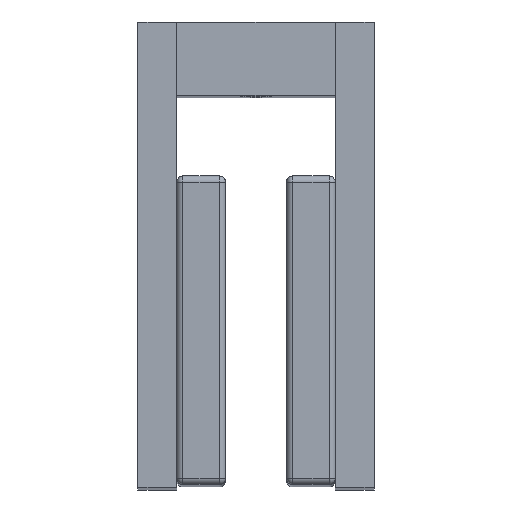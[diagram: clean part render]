
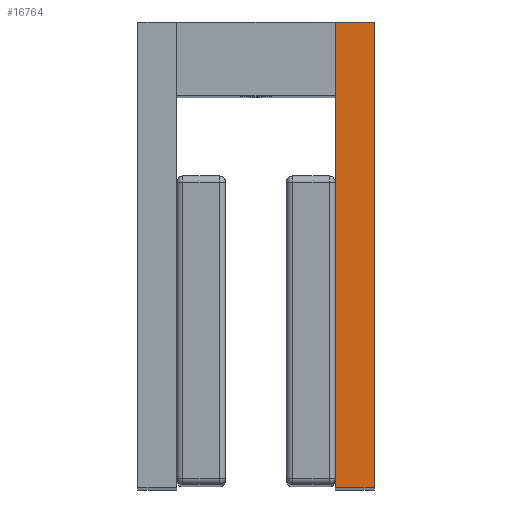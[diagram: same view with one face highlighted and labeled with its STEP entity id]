
A CAD part, top view. The second image highlights one B-rep face of the part: STEP entity #16764.
In plain terms, the highlighted planar face has unit normal (0, 0, 1).
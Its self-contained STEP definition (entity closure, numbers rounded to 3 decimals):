
#285 = EDGE_CURVE ( 'Defeatured_0_5+Defeatured_0_2+Defeatured_0_3+Defeatured_0_1', #1759, #3190, #5537, .T. ) ;
#296 = DIRECTION ( 'NONE',  ( 0., 0., -1. ) ) ;
#850 = DIRECTION ( 'NONE',  ( 0., -1., 0. ) ) ;
#1759 = VERTEX_POINT ( 'NONE', #19095 ) ;
#1794 = EDGE_CURVE ( 'Defeatured_0_2+Defeatured_0_37+Defeatured_0_3+Defeatured_0_0', #18677, #13866, #6120, .T. ) ;
#2045 = DIRECTION ( 'NONE',  ( 0., -1., 0. ) ) ;
#2885 = ORIENTED_EDGE ( 'NONE', *, *, #1794, .T. ) ;
#3190 = VERTEX_POINT ( 'NONE', #13403 ) ;
#3349 = FACE_OUTER_BOUND ( 'NONE', #11004, .T. ) ;
#4797 = CARTESIAN_POINT ( 'NONE',  ( 13., -6., 0. ) ) ;
#4873 = VERTEX_POINT ( 'NONE', #12076 ) ;
#5065 = DIRECTION ( 'NONE',  ( 1., 0., 0. ) ) ;
#5331 = ORIENTED_EDGE ( 'NONE', *, *, #285, .F. ) ;
#5537 = LINE ( 'NONE', #15395, #6384 ) ;
#5543 = DIRECTION ( 'NONE',  ( -1., 0., 0. ) ) ;
#6120 = LINE ( 'NONE', #15882, #7773 ) ;
#6384 = VECTOR ( 'NONE', #850, 1000. ) ;
#6581 = AXIS2_PLACEMENT_3D ( 'NONE', #11789, #296, #5065 ) ;
#6917 = EDGE_CURVE ( 'Defeatured_0_2+Defeatured_0_3+Defeatured_0_5+Defeatured_0_37', #1759, #18677, #18310, .T. ) ;
#7773 = VECTOR ( 'NONE', #11049, 1000. ) ;
#8874 = CARTESIAN_POINT ( 'NONE',  ( 19.35, 6., 0. ) ) ;
#9137 = CARTESIAN_POINT ( 'NONE',  ( 13., 6., 0. ) ) ;
#10447 = VECTOR ( 'NONE', #18147, 1000. ) ;
#11004 = EDGE_LOOP ( 'NONE', ( #2885, #13941, #16147, #5331, #16825 ) ) ;
#11049 = DIRECTION ( 'NONE',  ( 0., -1., 0. ) ) ;
#11371 = PLANE ( 'NONE',  #6581 ) ;
#11447 = EDGE_CURVE ( 'Defeatured_0_1+Defeatured_0_2+Defeatured_0_5+Defeatured_0_0', #3190, #4873, #13277, .T. ) ;
#11511 = CARTESIAN_POINT ( 'NONE',  ( 19.35, -70.2, 0. ) ) ;
#11757 = LINE ( 'NONE', #16802, #13134 ) ;
#11789 = CARTESIAN_POINT ( 'NONE',  ( 19.35, -70.2, 0. ) ) ;
#12076 = CARTESIAN_POINT ( 'NONE',  ( 13., -70.2, 0. ) ) ;
#13134 = VECTOR ( 'NONE', #2045, 1000. ) ;
#13277 = LINE ( 'NONE', #11511, #10447 ) ;
#13403 = CARTESIAN_POINT ( 'NONE',  ( 19.35, -70.2, 0. ) ) ;
#13866 = VERTEX_POINT ( 'NONE', #4797 ) ;
#13941 = ORIENTED_EDGE ( 'NONE', *, *, #16228, .T. ) ;
#15395 = CARTESIAN_POINT ( 'NONE',  ( 19.35, -70.2, 0. ) ) ;
#15882 = CARTESIAN_POINT ( 'NONE',  ( 13., -70.2, 0. ) ) ;
#16147 = ORIENTED_EDGE ( 'NONE', *, *, #11447, .F. ) ;
#16228 = EDGE_CURVE ( 'Defeatured_0_2+Defeatured_0_0+Defeatured_0_37+Defeatured_0_1', #13866, #4873, #11757, .T. ) ;
#16764 = ADVANCED_FACE ( 'Defeatured_0_2', ( #3349 ), #11371, .F. ) ;
#16802 = CARTESIAN_POINT ( 'NONE',  ( 13., -70.2, 0. ) ) ;
#16825 = ORIENTED_EDGE ( 'NONE', *, *, #6917, .T. ) ;
#18147 = DIRECTION ( 'NONE',  ( -1., 0., 0. ) ) ;
#18310 = LINE ( 'NONE', #8874, #20259 ) ;
#18677 = VERTEX_POINT ( 'NONE', #9137 ) ;
#19095 = CARTESIAN_POINT ( 'NONE',  ( 19.35, 6., 0. ) ) ;
#20259 = VECTOR ( 'NONE', #5543, 1000. ) ;
